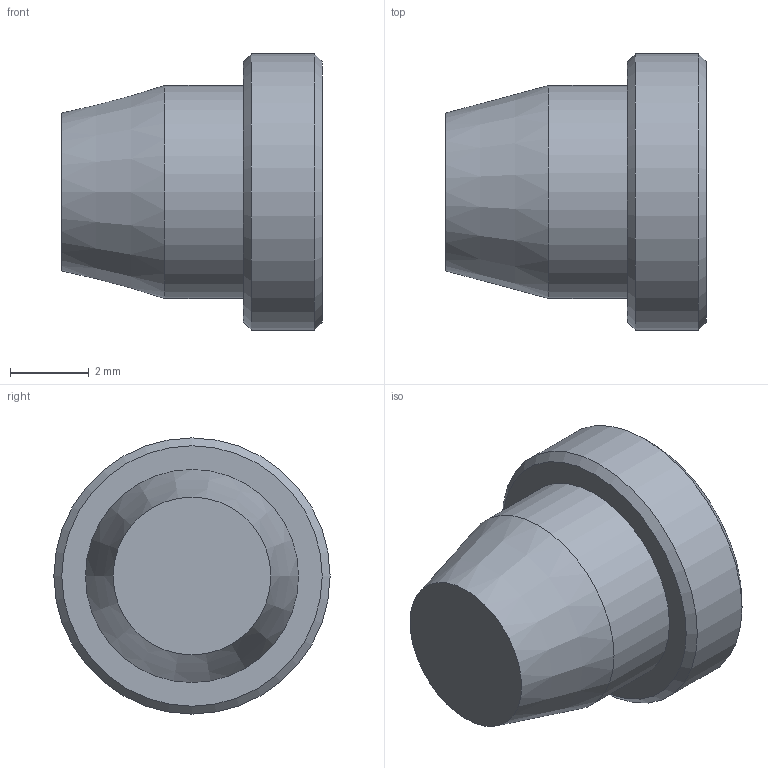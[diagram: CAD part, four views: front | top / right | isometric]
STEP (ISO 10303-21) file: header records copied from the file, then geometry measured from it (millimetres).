
FILE_DESCRIPTION(/* description */ ('Chucking Spigot'),/* implementation_level */ '2;1');
FILE_NAME(/* name */ 'Z:\Werkstatt Server\Projekte\Atlas\Entwicklung u. Konstruktion\Konstruktion\CAD Daten\ITkPixToolV2.0\Stencil Tool\ITPTv2.03.00.04.stp',/* time_stamp */ '2021-08-06T14:10:26+02:00',/* author */ ('Tim Kanngießer'),/* organization */ (''),/* preprocessor_version */ 'ST-DEVELOPER v18.1',/* originating_system */ 'Autodesk Inventor 2022',/* authorisation */ '');
FILE_SCHEMA (('AUTOMOTIVE_DESIGN { 1 0 10303 214 3 1 1 }'));
Length unit declared in the file: millimetre
Products named in the file (1): ITPTv2.03.00.04
Bounding box: 6.6 x 7 x 7 mm (x, y, z)
Volume: 167.3 mm3; surface area: 179 mm2
Topology: 1 solids, 1 shells, 8 faces, 14 edges, 9 vertices
Faces by surface type: cone 3, plane 3, cylinder 2
Full cylindrical faces by diameter (mm): 5.4 x1, 7 x1
Entity records: 240 total; most frequent: DIRECTION 41, CARTESIAN_POINT 32, ORIENTED_EDGE 28, AXIS2_PLACEMENT_3D 18, EDGE_CURVE 14, EDGE_LOOP 9, CIRCLE 9, VERTEX_POINT 9
